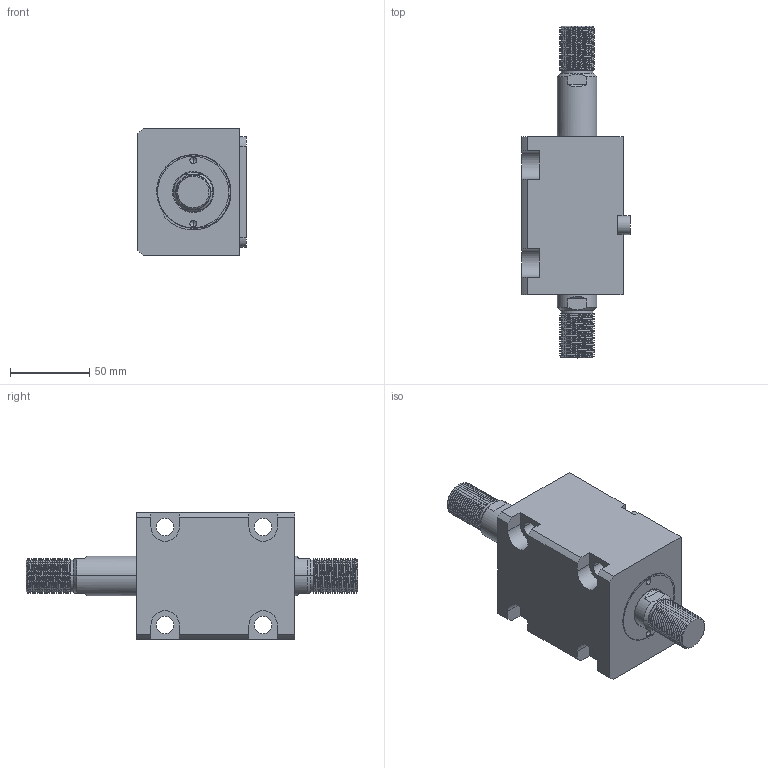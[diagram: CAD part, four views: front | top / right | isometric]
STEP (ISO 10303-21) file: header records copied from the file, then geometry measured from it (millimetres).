
FILE_DESCRIPTION (( 'STEP AP214' ), '1' );
FILE_NAME ('chtb-lwm40x30w_asm.STEP', '2018-05-31T00:32:27', ( 'Windows' ), ( 'Microsoft' ), 'SwSTEP 2.0', 'SolidWorks 2015', '' );
FILE_SCHEMA (( 'AUTOMOTIVE_DESIGN' ));
Length unit declared in the file: millimetre
Products named in the file (5): CHTB-SD40QG; CHTB-LA40PJ; chtb-lwm40x30w_asm; CHTB-SW40X30NHSG; CHTB-LWM40X30NBT
Assembly tree (4 placements, depth 2):
  chtb-lwm40x30w_asm
    CHTB-LA40PJ
    CHTB-SD40QG
    CHTB-LWM40X30NBT
    CHTB-SW40X30NHSG
Bounding box: 68.5 x 210 x 80 mm (x, y, z)
Volume: 501058.4 mm3; surface area: 93521 mm2
Topology: 4 solids, 4 shells, 252 faces, 699 edges, 465 vertices
Faces by surface type: cylinder 152, plane 57, bspline 18, cone 13, torus 12
Entity records: 17373 total; most frequent: CARTESIAN_POINT 11260, ORIENTED_EDGE 1386, DIRECTION 1092, EDGE_CURVE 693, VERTEX_POINT 465, AXIS2_PLACEMENT_3D 419, EDGE_LOOP 284, VECTOR 254
